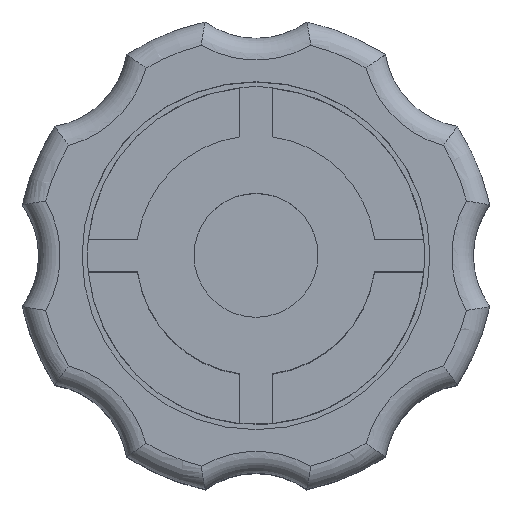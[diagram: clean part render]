
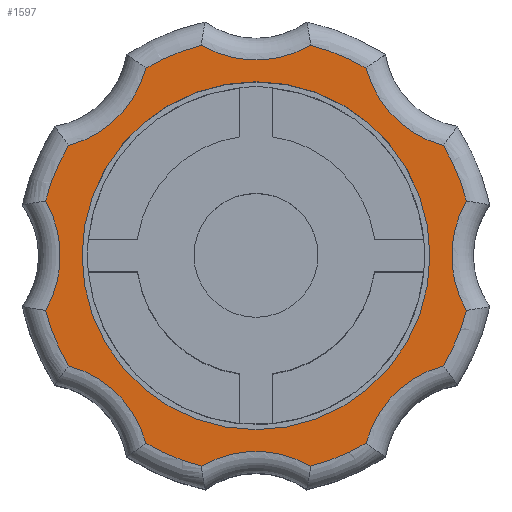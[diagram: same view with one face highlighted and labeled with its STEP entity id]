
A CAD part, top view. The second image highlights one B-rep face of the part: STEP entity #1597.
In plain terms, the highlighted planar face has unit normal (0, 0, 1).
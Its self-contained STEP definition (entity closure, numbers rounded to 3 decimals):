
#35=FACE_BOUND('',#455,.T.);
#51=PLANE('',#1767);
#351=FACE_OUTER_BOUND('',#454,.T.);
#454=EDGE_LOOP('',(#1257,#1258,#1259,#1260,#1261,#1262,#1263,#1264,#1265,
#1266,#1267,#1268,#1269,#1270,#1271,#1272));
#455=EDGE_LOOP('',(#1273));
#595=CIRCLE('',#1720,10.);
#596=CIRCLE('',#1722,5.);
#597=CIRCLE('',#1724,10.);
#598=CIRCLE('',#1726,5.);
#599=CIRCLE('',#1728,10.);
#601=CIRCLE('',#1731,10.);
#603=CIRCLE('',#1734,5.);
#605=CIRCLE('',#1737,10.);
#607=CIRCLE('',#1740,5.);
#609=CIRCLE('',#1743,10.);
#611=CIRCLE('',#1746,5.);
#612=CIRCLE('',#1748,5.);
#614=CIRCLE('',#1751,10.);
#616=CIRCLE('',#1754,5.);
#617=CIRCLE('',#1756,10.);
#618=CIRCLE('',#1758,5.);
#619=CIRCLE('',#1768,8.);
#706=VERTEX_POINT('',#2738);
#707=VERTEX_POINT('',#2753);
#708=VERTEX_POINT('',#2770);
#709=VERTEX_POINT('',#2787);
#710=VERTEX_POINT('',#2804);
#711=VERTEX_POINT('',#2821);
#713=VERTEX_POINT('',#2840);
#714=VERTEX_POINT('',#2855);
#716=VERTEX_POINT('',#2874);
#718=VERTEX_POINT('',#2893);
#720=VERTEX_POINT('',#2912);
#722=VERTEX_POINT('',#2931);
#724=VERTEX_POINT('',#2950);
#726=VERTEX_POINT('',#2971);
#727=VERTEX_POINT('',#2989);
#728=VERTEX_POINT('',#3006);
#729=VERTEX_POINT('',#3040);
#881=EDGE_CURVE('',#706,#707,#595,.T.);
#884=EDGE_CURVE('',#708,#706,#596,.T.);
#886=EDGE_CURVE('',#709,#708,#597,.T.);
#888=EDGE_CURVE('',#710,#709,#598,.T.);
#890=EDGE_CURVE('',#711,#710,#599,.T.);
#893=EDGE_CURVE('',#713,#714,#601,.T.);
#897=EDGE_CURVE('',#716,#713,#603,.T.);
#900=EDGE_CURVE('',#718,#716,#605,.T.);
#903=EDGE_CURVE('',#720,#718,#607,.T.);
#906=EDGE_CURVE('',#722,#720,#609,.T.);
#909=EDGE_CURVE('',#724,#722,#611,.T.);
#910=EDGE_CURVE('',#714,#711,#612,.T.);
#913=EDGE_CURVE('',#726,#724,#614,.T.);
#916=EDGE_CURVE('',#727,#726,#616,.T.);
#918=EDGE_CURVE('',#728,#727,#617,.T.);
#919=EDGE_CURVE('',#707,#728,#618,.T.);
#927=EDGE_CURVE('',#729,#729,#619,.T.);
#1257=ORIENTED_EDGE('',*,*,#893,.F.);
#1258=ORIENTED_EDGE('',*,*,#897,.F.);
#1259=ORIENTED_EDGE('',*,*,#900,.F.);
#1260=ORIENTED_EDGE('',*,*,#903,.F.);
#1261=ORIENTED_EDGE('',*,*,#906,.F.);
#1262=ORIENTED_EDGE('',*,*,#909,.F.);
#1263=ORIENTED_EDGE('',*,*,#913,.F.);
#1264=ORIENTED_EDGE('',*,*,#916,.F.);
#1265=ORIENTED_EDGE('',*,*,#918,.F.);
#1266=ORIENTED_EDGE('',*,*,#919,.F.);
#1267=ORIENTED_EDGE('',*,*,#881,.F.);
#1268=ORIENTED_EDGE('',*,*,#884,.F.);
#1269=ORIENTED_EDGE('',*,*,#886,.F.);
#1270=ORIENTED_EDGE('',*,*,#888,.F.);
#1271=ORIENTED_EDGE('',*,*,#890,.F.);
#1272=ORIENTED_EDGE('',*,*,#910,.F.);
#1273=ORIENTED_EDGE('',*,*,#927,.T.);
#1597=ADVANCED_FACE('',(#351,#35),#51,.F.);
#1720=AXIS2_PLACEMENT_3D('',#2754,#2014,#2015);
#1722=AXIS2_PLACEMENT_3D('',#2785,#2018,#2019);
#1724=AXIS2_PLACEMENT_3D('',#2802,#2022,#2023);
#1726=AXIS2_PLACEMENT_3D('',#2819,#2026,#2027);
#1728=AXIS2_PLACEMENT_3D('',#2836,#2030,#2031);
#1731=AXIS2_PLACEMENT_3D('',#2856,#2036,#2037);
#1734=AXIS2_PLACEMENT_3D('',#2889,#2042,#2043);
#1737=AXIS2_PLACEMENT_3D('',#2908,#2048,#2049);
#1740=AXIS2_PLACEMENT_3D('',#2927,#2054,#2055);
#1743=AXIS2_PLACEMENT_3D('',#2946,#2060,#2061);
#1746=AXIS2_PLACEMENT_3D('',#2965,#2066,#2067);
#1748=AXIS2_PLACEMENT_3D('',#2967,#2070,#2071);
#1751=AXIS2_PLACEMENT_3D('',#2986,#2076,#2077);
#1754=AXIS2_PLACEMENT_3D('',#3004,#2082,#2083);
#1756=AXIS2_PLACEMENT_3D('',#3021,#2086,#2087);
#1758=AXIS2_PLACEMENT_3D('',#3023,#2090,#2091);
#1767=AXIS2_PLACEMENT_3D('',#3039,#2115,#2116);
#1768=AXIS2_PLACEMENT_3D('',#3041,#2117,#2118);
#2014=DIRECTION('center_axis',(0.,0.,-1.));
#2015=DIRECTION('ref_axis',(0.383,0.924,0.));
#2018=DIRECTION('center_axis',(0.,0.,1.));
#2019=DIRECTION('ref_axis',(0.,-1.,0.));
#2022=DIRECTION('center_axis',(0.,0.,-1.));
#2023=DIRECTION('ref_axis',(-0.383,0.924,0.));
#2026=DIRECTION('center_axis',(0.,0.,1.));
#2027=DIRECTION('ref_axis',(0.707,-0.707,0.));
#2030=DIRECTION('center_axis',(0.,0.,-1.));
#2031=DIRECTION('ref_axis',(-0.924,0.383,0.));
#2036=DIRECTION('center_axis',(0.,0.,-1.));
#2037=DIRECTION('ref_axis',(-0.924,-0.383,0.));
#2042=DIRECTION('center_axis',(0.,0.,1.));
#2043=DIRECTION('ref_axis',(0.707,0.707,0.));
#2048=DIRECTION('center_axis',(0.,0.,-1.));
#2049=DIRECTION('ref_axis',(-0.383,-0.924,0.));
#2054=DIRECTION('center_axis',(0.,0.,1.));
#2055=DIRECTION('ref_axis',(0.,1.,0.));
#2060=DIRECTION('center_axis',(0.,0.,-1.));
#2061=DIRECTION('ref_axis',(0.383,-0.924,0.));
#2066=DIRECTION('center_axis',(0.,0.,1.));
#2067=DIRECTION('ref_axis',(-0.707,0.707,0.));
#2070=DIRECTION('center_axis',(0.,0.,1.));
#2071=DIRECTION('ref_axis',(1.,0.,0.));
#2076=DIRECTION('center_axis',(0.,0.,-1.));
#2077=DIRECTION('ref_axis',(0.924,-0.383,0.));
#2082=DIRECTION('center_axis',(0.,0.,1.));
#2083=DIRECTION('ref_axis',(-1.,0.,0.));
#2086=DIRECTION('center_axis',(0.,0.,-1.));
#2087=DIRECTION('ref_axis',(0.924,0.383,0.));
#2090=DIRECTION('center_axis',(0.,0.,1.));
#2091=DIRECTION('ref_axis',(-0.707,-0.707,0.));
#2115=DIRECTION('center_axis',(0.,0.,-1.));
#2116=DIRECTION('ref_axis',(-1.,0.,0.));
#2117=DIRECTION('center_axis',(0.,0.,-1.));
#2118=DIRECTION('ref_axis',(-1.,0.,0.));
#2738=CARTESIAN_POINT('',(2.515,9.679,15.));
#2753=CARTESIAN_POINT('',(5.065,8.622,15.));
#2754=CARTESIAN_POINT('Origin',(0.,0.,15.));
#2770=CARTESIAN_POINT('',(-2.515,9.679,15.));
#2785=CARTESIAN_POINT('Origin',(0.,14.,15.));
#2787=CARTESIAN_POINT('',(-5.065,8.622,15.));
#2802=CARTESIAN_POINT('Origin',(0.,0.,15.));
#2804=CARTESIAN_POINT('',(-8.622,5.065,15.));
#2819=CARTESIAN_POINT('Origin',(-9.899,9.899,15.));
#2821=CARTESIAN_POINT('',(-9.679,2.515,15.));
#2836=CARTESIAN_POINT('Origin',(0.,0.,15.));
#2840=CARTESIAN_POINT('',(-8.622,-5.065,15.));
#2855=CARTESIAN_POINT('',(-9.679,-2.515,15.));
#2856=CARTESIAN_POINT('Origin',(0.,0.,15.));
#2874=CARTESIAN_POINT('',(-5.065,-8.622,15.));
#2889=CARTESIAN_POINT('Origin',(-9.899,-9.899,15.));
#2893=CARTESIAN_POINT('',(-2.515,-9.679,15.));
#2908=CARTESIAN_POINT('Origin',(0.,0.,15.));
#2912=CARTESIAN_POINT('',(2.515,-9.679,15.));
#2927=CARTESIAN_POINT('Origin',(0.,-14.,15.));
#2931=CARTESIAN_POINT('',(5.065,-8.622,15.));
#2946=CARTESIAN_POINT('Origin',(0.,0.,15.));
#2950=CARTESIAN_POINT('',(8.622,-5.065,15.));
#2965=CARTESIAN_POINT('Origin',(9.899,-9.899,15.));
#2967=CARTESIAN_POINT('Origin',(-14.,0.,15.));
#2971=CARTESIAN_POINT('',(9.679,-2.515,15.));
#2986=CARTESIAN_POINT('Origin',(0.,0.,15.));
#2989=CARTESIAN_POINT('',(9.679,2.515,15.));
#3004=CARTESIAN_POINT('Origin',(14.,0.,15.));
#3006=CARTESIAN_POINT('',(8.622,5.065,15.));
#3021=CARTESIAN_POINT('Origin',(0.,0.,15.));
#3023=CARTESIAN_POINT('Origin',(9.899,9.899,15.));
#3039=CARTESIAN_POINT('Origin',(0.,0.,15.));
#3040=CARTESIAN_POINT('',(8.,0.,15.));
#3041=CARTESIAN_POINT('Origin',(0.,0.,15.));
